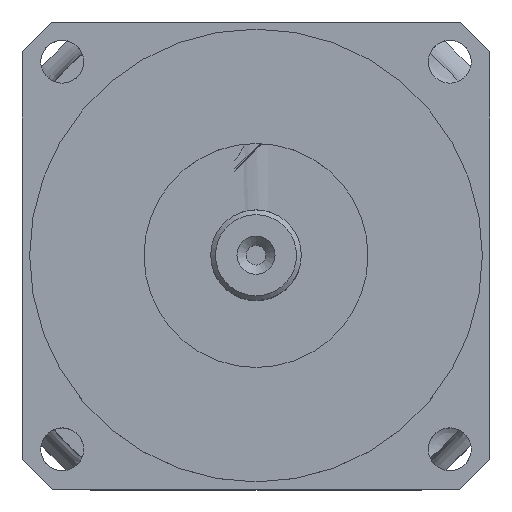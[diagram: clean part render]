
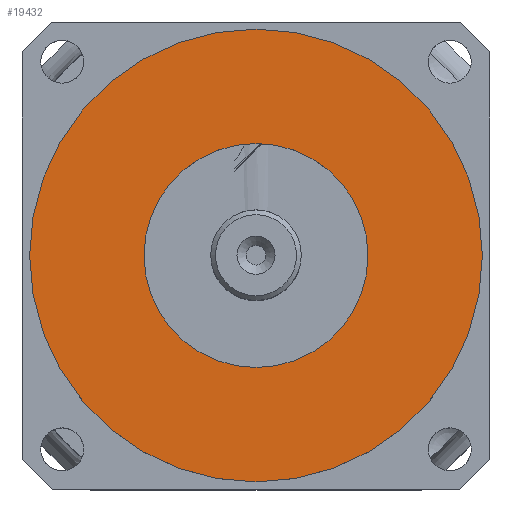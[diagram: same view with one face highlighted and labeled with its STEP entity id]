
A CAD part, top view. The second image highlights one B-rep face of the part: STEP entity #19432.
In plain terms, the highlighted planar face has unit normal (0, 0, 1).
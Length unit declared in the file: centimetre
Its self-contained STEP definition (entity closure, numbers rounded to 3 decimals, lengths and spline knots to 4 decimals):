
#2680=VERTEX_POINT('',#31570);
#2682=VERTEX_POINT('',#31575);
#5764=EDGE_CURVE('',#2680,#2680,#21798,.T.);
#5766=EDGE_CURVE('',#2682,#2682,#21800,.T.);
#9239=ORIENTED_EDGE('',*,*,#5766,.F.);
#9240=ORIENTED_EDGE('',*,*,#5764,.F.);
#15880=EDGE_LOOP('',(#9239));
#15881=EDGE_LOOP('',(#9240));
#17664=FACE_BOUND('',#15880,.T.);
#17665=FACE_BOUND('',#15881,.T.);
#19432=ADVANCED_FACE('',(#17664,#17665),#29569,.T.);
#21798=CIRCLE('',#25776,4.75);
#21800=CIRCLE('',#25779,2.35);
#25776=AXIS2_PLACEMENT_3D('',#31569,#50948,#50949);
#25779=AXIS2_PLACEMENT_3D('',#31574,#50954,#50955);
#25781=AXIS2_PLACEMENT_3D('',#31578,#50958,$);
#29569=PLANE('',#25781);
#31569=CARTESIAN_POINT('',(0.,0.,
1.6));
#31570=CARTESIAN_POINT('',(4.75,0.,1.6));
#31574=CARTESIAN_POINT('',(0.,0.,
1.6));
#31575=CARTESIAN_POINT('',(2.35,0.,1.6));
#31578=CARTESIAN_POINT('',(0.,0.,
1.6));
#50948=DIRECTION('',(0.,0.,-1.));
#50949=DIRECTION('',(4.75,0.,0.));
#50954=DIRECTION('',(0.,0.,1.));
#50955=DIRECTION('',(2.35,0.,0.));
#50958=DIRECTION('',(0.,0.,1.));
